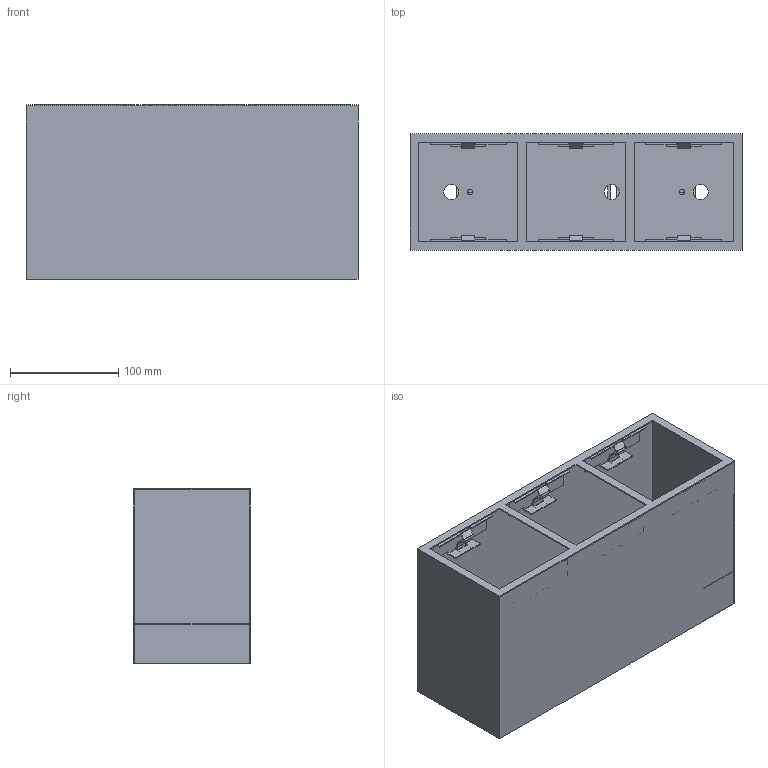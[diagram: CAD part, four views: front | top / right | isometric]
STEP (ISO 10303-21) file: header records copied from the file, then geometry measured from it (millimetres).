
FILE_DESCRIPTION(/* description */ (''),/* implementation_level */ '2;1');
FILE_NAME(/* name */ 'C:\Users\FrancoSartori\Documents\FARO\01_En Proceso\0000_2022\000_PRO\000_PODIUM\03_Publicación\03 PODIUM SUPERFICIE 3.stp',/* time_stamp */ '2022-05-12T13:42:33+02:00',/* author */ ('FrancoSartori'),/* organization */ (''),/* preprocessor_version */ 'ST-DEVELOPER v19',/* originating_system */ 'AutoCAD Mechanical',/* authorisation */ '');
FILE_SCHEMA (('AUTOMOTIVE_DESIGN { 1 0 10303 214 3 1 1 }'));
Length unit declared in the file: millimetre
Products named in the file (2): Product; 03 PODIUM SUPERFICIE 3_ - Lamp-689282-View 1
Assembly tree (1 placements, depth 2):
  Product
    03 PODIUM SUPERFICIE 3_ - Lamp-689282-View 1
Bounding box: 306.4 x 107.5 x 161.2 mm (x, y, z)
Volume: 204015.8 mm3; surface area: 423310.6 mm2
Topology: 17 solids, 17 shells, 426 faces, 1178 edges, 776 vertices
Faces by surface type: plane 274, cylinder 148, cone 4
Entity records: 13715 total; most frequent: CARTESIAN_POINT 2383, ORIENTED_EDGE 2356, DIRECTION 2332, EDGE_CURVE 1178, LINE 882, VECTOR 882, VERTEX_POINT 776, AXIS2_PLACEMENT_3D 725
